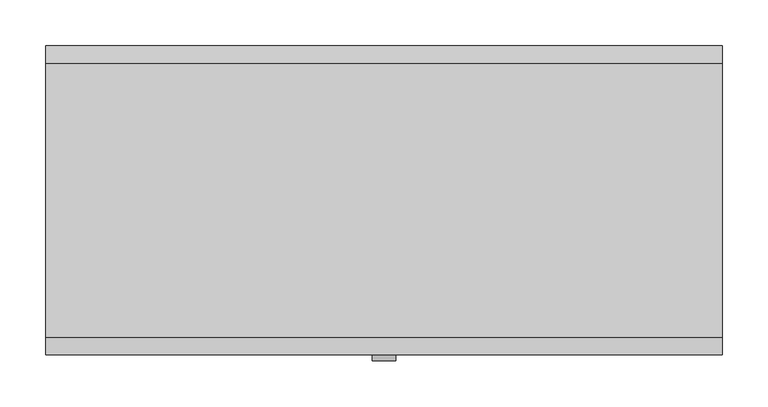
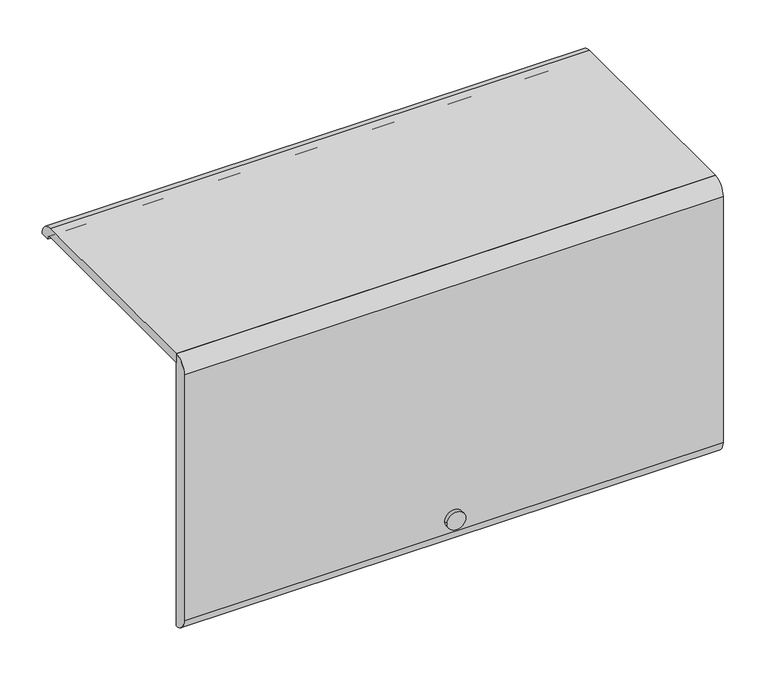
"""IFC4 building model written with IfcOpenShell, lengths in millimetres: furniture geometry, HermanMiller_ActionOffice_B-StyleFlipperDoor : Paint 15-1/2H x 13D x 30W."""

from ifc_helpers import new_model, si_unit, point, frame, frame_2d, origin, place, context, project, spatial, polyline, circle_curve, trimmed, segment, composite_curve, outline, extrude, source, transform, mapped, element, save


def furniture_48dc0a6c(model_context):
    return source(origin(), model_context, "Body", "SweptSolid", [
        extrude(outline(composite_curve([segment(polyline([(-136.525, 1562.1), (-136.525, 1574.8), (161.925, 1574.8)]), True, "CONTINUOUS"), segment(trimmed(circle_curve(frame_2d((161.925, 1555.75)), 19.05), [point((161.925, 1574.8))], [point((180.975, 1555.75))], False, "CARTESIAN"), True, "CONTINUOUS"), segment(polyline([(180.975, 1555.75), (168.275, 1555.75)]), True, "CONTINUOUS"), segment(trimmed(circle_curve(frame_2d((161.925, 1555.75)), 6.35), [point((168.275, 1555.75))], [point((161.925, 1562.1))], True, "CARTESIAN"), True, "CONTINUOUS"), segment(polyline([(161.925, 1562.1), (-136.525, 1562.1)]), True, "CONTINUOUS")], self_intersect=False)), frame((-368.3, 0.0, 0.0), z_axis=(1.0, 0.0, 0.0), x_axis=(0.0, 1.0, 0.0)), (0.0, 0.0, 1.0), 736.6),
        extrude(outline(composite_curve([segment(trimmed(circle_curve(frame_2d((-136.525, 1555.75)), 19.05), [point((-155.575, 1555.75))], [point((-136.525, 1574.8))], False, "CARTESIAN"), True, "CONTINUOUS"), segment(polyline([(-136.525, 1574.8), (-136.525, 1181.1)]), True, "CONTINUOUS"), segment(trimmed(circle_curve(frame_2d((-136.525, 1200.15)), 19.05), [point((-136.525, 1181.1))], [point((-155.575, 1200.15))], False, "CARTESIAN"), True, "CONTINUOUS"), segment(polyline([(-155.575, 1200.15), (-155.575, 1555.75)]), True, "CONTINUOUS")], self_intersect=False)), frame((-368.3, 0.0, 0.0), z_axis=(1.0, 0.0, 0.0), x_axis=(0.0, 1.0, 0.0)), (0.0, 0.0, 1.0), 736.6),
        extrude(outline(composite_curve([segment(trimmed(circle_curve(frame_2d((1219.1618906, 0.0201199)), 12.7253951), [point((1219.1618906, 12.745515))], [point((1219.1618906, -12.7052752))], False, "CARTESIAN"), True, "CONTINUOUS"), segment(trimmed(circle_curve(frame_2d((1219.1618906, 0.0201199)), 12.7253951), [point((1219.1618906, -12.7052752))], [point((1219.1618906, 12.745515))], False, "CARTESIAN"), True, "CONTINUOUS")], self_intersect=False)), frame((0.0, -161.925, 0.0), z_axis=(0.0, 1.0, 0.0), x_axis=(0.0, 0.0, 1.0)), (0.0, 0.0, 1.0), 6.35),
    ])


if __name__ == "__main__":
    model = new_model("IFC4")
    model_context = context("Model", 3, world=origin())
    ifc_project = project(units=[si_unit("LENGTHUNIT", "METRE", prefix="MILLI")], contexts=[model_context])
    site = spatial("IfcSite", under=ifc_project)
    building = spatial("IfcBuilding", under=site)
    placement = place(None, origin())
    furniture_shape = furniture_48dc0a6c(model_context)
    element("IfcFurniture", 1, ObjectType="HermanMiller_ActionOffice_B-StyleFlipperDoor : Paint 15-1/2H x 13D x 30W", at=placement, inside=building, context=model_context, shape_type="MappedRepresentation", body=[
        mapped(furniture_shape, transform((0.0, 0.0, 0.0), x_axis=(1.0, 0.0, 0.0), y_axis=(0.0, 1.0, 0.0), z_axis=(0.0, 0.0, 1.0))),
    ])
    save(model, "model.ifc")
